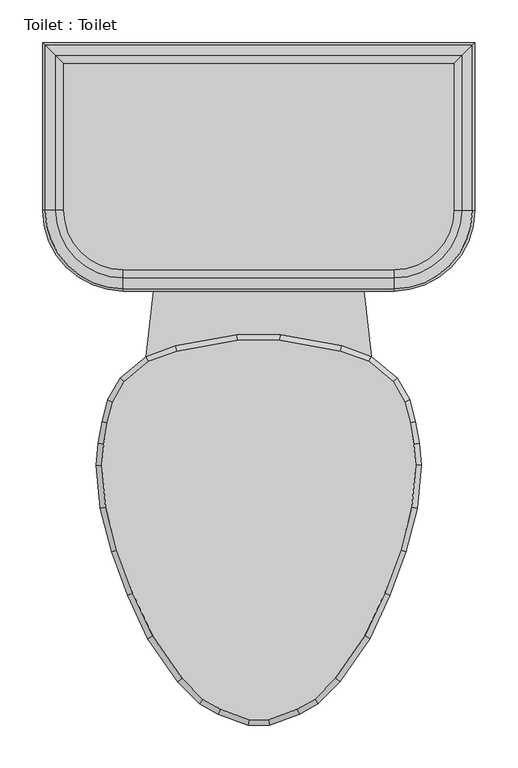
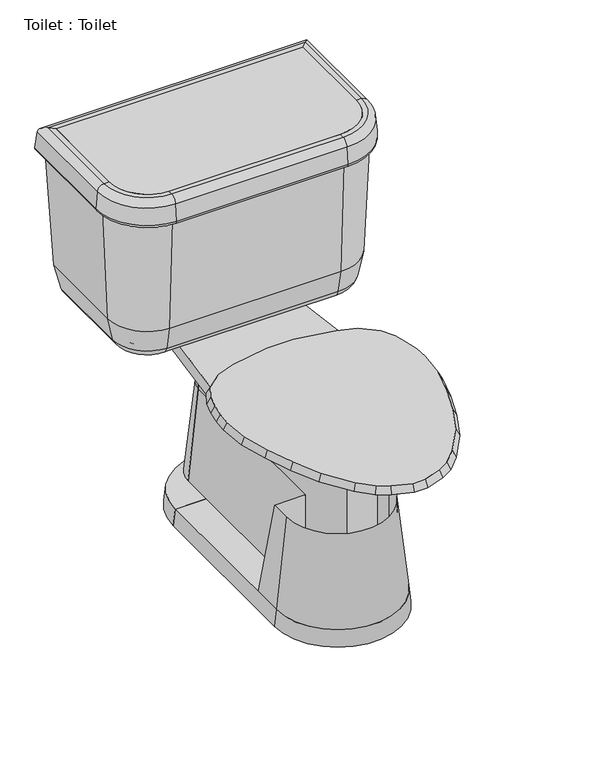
"""IFC4 building model written with IfcOpenShell, lengths in millimetres: flow terminal geometry, Toilet : Toilet."""

from ifc_helpers import new_model, si_unit, point, frame, frame_2d, origin, place, context, project, spatial, polyline, circle_curve, ellipse_curve, trimmed, segment, composite_curve, outline, extrude, faceted_brep, source, transform, mapped, element, save
from ifc_brep_helpers import plane_surface, cylinder_surface, revolved_surface, advanced_brep


def toilet_toilet_5cb52bd4(model_context):
    return source(origin(), model_context, "Body", "SolidModel", [
        advanced_brep(
        [(-117.7636364, 285.75, 0.0), (-38.1, 285.75, 0.0), (-38.1, 285.75, 31.75), (-114.3, 285.75, 31.75), (117.7636364, 285.75, 0.0), (114.3, 285.75, 31.75), (38.1, 285.75, 31.75), (38.1, 285.75, 0.0)],
        [
            (0, 1),
            (1, 2),
            (2, 3),
            (3, 0),
            (4, 5),
            (5, 6),
            (6, 7),
            (7, 4),
            (7, 1, circle_curve(frame((0.0, 285.75, 0.0), z_axis=(0.0, 0.0, 1.0), x_axis=(-1.0, 0.0, 0.0)), 38.1)),
            (0, 4, circle_curve(frame((0.0, 285.75, 0.0), z_axis=(0.0, 0.0, -1.0), x_axis=(-1.0, 0.0, 0.0)), 117.7636364)),
            (6, 2, circle_curve(frame((0.0, 285.75, 31.75), z_axis=(0.0, 0.0, 1.0), x_axis=(-1.0, 0.0, 0.0)), 38.1)),
            (5, 3, circle_curve(frame((0.0, 285.75, 31.75), z_axis=(0.0, 0.0, 1.0), x_axis=(-1.0, 0.0, 0.0)), 114.3)),
        ],
        [
            plane_surface(frame((0.0, 285.75, -304.8), z_axis=(0.0, -1.0, 0.0), x_axis=(-1.0, 0.0, 0.0))),
            plane_surface(frame((0.0, 285.75, -304.8), z_axis=(0.0, -1.0, 0.0), x_axis=(1.0, 0.0, 0.0))),
            plane_surface(frame((0.0, 285.75, 0.0), z_axis=(0.0, 0.0, -1.0), x_axis=(-1.0, 0.0, 0.0))),
            revolved_surface(polyline([(-38.1, 285.75, 0.0), (-38.1, 285.75, 31.75)]), (0.0, 285.75, -304.8), (0.0, 0.0, -1.0)),
            plane_surface(frame((0.0, 285.75, 31.75), z_axis=(0.0, 0.0, 1.0), x_axis=(-1.0, 0.0, 0.0))),
            revolved_surface(polyline([(-114.3, 285.75, 31.75), (-117.7636364, 285.75, 0.0)]), (0.0, 285.75, -304.8), (0.0, 0.0, -1.0)),
        ],
        [
            (0, [[1, 2, 3, 4]]),
            (1, [[5, 6, 7, 8]]),
            (2, [[9, -1, 10, -8]]),
            (3, [[11, -2, -9, -7]]),
            (4, [[12, -3, -11, -6]]),
            (5, [[-10, -4, -12, -5]]),
        ],
    ),
        advanced_brep(
        [(-38.1, 342.9, 206.375), (-57.15, 342.9, 31.75), (-38.1, 342.9, 31.75), (38.1, 342.9, 206.375), (38.1, 342.9, 31.75), (57.15, 342.9, 31.75)],
        [
            (0, 1),
            (1, 2),
            (2, 0),
            (3, 4),
            (4, 5),
            (5, 3),
            (5, 1, circle_curve(frame((0.0, 342.9, 31.75), z_axis=(0.0, 0.0, 1.0), x_axis=(-1.0, 0.0, 0.0)), 57.15)),
            (0, 3, circle_curve(frame((0.0, 342.9, 206.375), z_axis=(0.0, 0.0, -1.0), x_axis=(-1.0, 0.0, 0.0)), 38.1)),
            (4, 2, circle_curve(frame((0.0, 342.9, 31.75), z_axis=(0.0, 0.0, 1.0), x_axis=(-1.0, 0.0, 0.0)), 38.1)),
        ],
        [
            plane_surface(frame((0.0, 342.9, 31.75), z_axis=(0.0, -1.0, 0.0), x_axis=(-1.0, 0.0, 0.0))),
            plane_surface(frame((0.0, 342.9, 31.75), z_axis=(0.0, -1.0, 0.0), x_axis=(1.0, 0.0, 0.0))),
            revolved_surface(polyline([(-38.1, 342.9, 206.375), (-57.15, 342.9, 31.75)]), (0.0, 342.9, 31.75), (0.0, 0.0, -1.0)),
            plane_surface(frame((0.0, 342.9, 31.75), z_axis=(0.0, 0.0, -1.0), x_axis=(-1.0, 0.0, 0.0))),
            revolved_surface(polyline([(-38.1, 342.9, 31.75), (-38.1, 342.9, 206.375)]), (0.0, 342.9, 31.75), (0.0, 0.0, -1.0)),
        ],
        [
            (0, [[1, 2, 3]]),
            (1, [[4, 5, 6]]),
            (2, [[7, -1, 8, -6]]),
            (3, [[9, -2, -7, -5]]),
            (4, [[-8, -3, -9, -4]]),
        ],
    ),
        faceted_brep([(-157.6293435, 97.472128, 400.05), (-171.060664, 73.773864, 400.05), (-177.5851102, 49.4242991, 400.05), (-181.9845715, 24.4737144, 400.05), (-184.125744, 0.0, 400.05), (-179.7950716, -49.4998127, 400.05), (-166.347, -99.688699, 400.05), (-148.0469602, -149.9676451, 400.05), (-124.7045808, -200.0255393, 400.05), (-90.0971582, -249.9125941, 400.05), (-65.691017, -274.3187354, 400.05), (-44.8990862, -286.3229622, 400.05), (-11.5803237, -298.45, 400.05), (11.5803237, -298.45, 400.05), (44.8990862, -286.3229622, 400.05), (65.691017, -274.3187354, 400.05), (90.0971582, -249.9125941, 400.05), (124.7045808, -200.0255393, 400.05), (148.0469602, -149.9676451, 400.05), (166.347, -99.688699, 400.05), (179.7950716, -49.4998127, 400.05), (184.125744, 0.0, 400.05), (181.9845715, 24.4737144, 400.05), (177.5851102, 49.4242991, 400.05), (171.060664, 73.773864, 400.05), (157.6293435, 97.472128, 400.05), (129.0942628, 121.4159037, 400.05), (95.7755003, 133.5429415, 400.05), (24.844447, 146.05, 400.05), (-24.844447, 146.05, 400.05), (-95.7755003, 133.5429415, 400.05), (-129.0942628, 121.4159037, 400.05), (-162.5887836, 101.6, 387.2181453), (-132.3182423, 127.0, 387.2181453), (-97.4252791, 139.7, 387.2181453), (-25.4, 152.4, 387.2181453), (25.4, 152.4, 387.2181453), (97.4252791, 139.7, 387.2181453), (132.3182423, 127.0, 387.2181453), (162.5887836, 101.6, 387.2181453), (176.9845865, 76.2, 387.2181453), (183.790496, 50.8, 387.2181453), (188.2862441, 25.3033453, 387.2181453), (190.5, 0.0, 387.2181453), (186.0724883, -50.6066907, 387.2181453), (172.4088722, -101.6, 387.2181453), (153.9191843, -152.4, 387.2181453), (130.2307553, -203.2, 387.2181453), (94.9900085, -254.0, 387.2181453), (69.5900085, -279.4, 387.2181453), (47.5929632, -292.1, 387.2181453), (12.7, -304.8, 387.2181453), (-12.7, -304.8, 387.2181453), (-47.5929632, -292.1, 387.2181453), (-69.5900085, -279.4, 387.2181453), (-94.9900085, -254.0, 387.2181453), (-130.2307553, -203.2, 387.2181453), (-153.9191843, -152.4, 387.2181453), (-172.4088722, -101.6, 387.2181453), (-186.0724883, -50.6066907, 387.2181453), (-190.5, 0.0, 387.2181453), (-188.2862441, 25.3033453, 387.2181453), (-183.790496, 50.8, 387.2181453), (-176.9845865, 76.2, 387.2181453)], [[[0, 1, 2, 3, 4, 5, 6, 7, 8, 9, 10, 11, 12, 13, 14, 15, 16, 17, 18, 19, 20, 21, 22, 23, 24, 25, 26, 27, 28, 29, 30, 31]], [[32, 33, 34, 35, 36, 37, 38, 39, 40, 41, 42, 43, 44, 45, 46, 47, 48, 49, 50, 51, 52, 53, 54, 55, 56, 57, 58, 59, 60, 61, 62, 63]], [[32, 63, 1, 0]], [[63, 62, 2, 1]], [[62, 61, 3, 2]], [[61, 60, 4, 3]], [[60, 59, 5, 4]], [[59, 58, 6, 5]], [[58, 57, 7, 6]], [[57, 56, 8, 7]], [[56, 55, 9, 8]], [[55, 54, 10, 9]], [[54, 53, 11, 10]], [[53, 52, 12, 11]], [[52, 51, 13, 12]], [[51, 50, 14, 13]], [[50, 49, 15, 14]], [[49, 48, 16, 15]], [[48, 47, 17, 16]], [[47, 46, 18, 17]], [[46, 45, 19, 18]], [[45, 44, 20, 19]], [[44, 43, 21, 20]], [[43, 42, 22, 21]], [[42, 41, 23, 22]], [[41, 40, 24, 23]], [[40, 39, 25, 24]], [[39, 38, 26, 25]], [[38, 37, 27, 26]], [[37, 36, 28, 27]], [[36, 35, 29, 28]], [[35, 34, 30, 29]], [[34, 33, 31, 30]], [[33, 32, 0, 31]]]),
        extrude(outline(composite_curve([segment(polyline([(228.5868869, 469.8868869), (228.5868869, 298.45)]), True, "CONTINUOUS"), segment(trimmed(circle_curve(frame_2d((158.75, 298.45)), 69.8368869), [point((228.5868869, 298.45))], [point((158.75, 228.6131131))], False, "CARTESIAN"), True, "CONTINUOUS"), segment(polyline([(158.75, 228.6131131), (-158.75, 228.6131131)]), True, "CONTINUOUS"), segment(trimmed(circle_curve(frame_2d((-158.75, 298.45)), 69.8368869), [point((-158.75, 228.6131131))], [point((-228.5868869, 298.45))], False, "CARTESIAN"), True, "CONTINUOUS"), segment(polyline([(-228.5868869, 298.45), (-228.5868869, 469.8868869), (228.5868869, 469.8868869)]), True, "CONTINUOUS")], self_intersect=False)), frame((0.0, 0.0, 654.05), z_axis=(0.0, 0.0, 1.0), x_axis=(1.0, 0.0, 0.0)), (0.0, 0.0, 1.0), 50.8),
        extrude(outline(composite_curve([segment(trimmed(circle_curve(frame_2d((0.0, 342.9)), 38.1), [point((-38.1, 342.9))], [point((38.1, 342.9))], False, "CARTESIAN"), True, "CONTINUOUS"), segment(polyline([(38.1, 342.9), (-38.1, 342.9)]), True, "CONTINUOUS")], self_intersect=False)), frame((0.0, 0.0, 206.375), z_axis=(0.0, 0.0, 1.0), x_axis=(1.0, 0.0, 0.0)), (0.0, 0.0, 1.0), 130.175),
        advanced_brep(
        [(177.8, 419.1, 387.2181453), (177.8, 419.1, 374.65), (177.8, 298.45, 374.65), (177.8, 298.45, 387.2181453), (192.8020829, 434.1020829, 387.2181453), (192.8020829, 298.45, 387.2181453), (211.4650931, 452.7650931, 402.4478636), (211.4650931, 298.45, 402.4478636), (218.7732506, 460.0732506, 438.15), (218.7732506, 298.45, 438.15), (228.5868869, 469.8868869, 654.05), (228.5868869, 298.45, 654.05), (228.5868869, 469.8868869, 704.85), (228.5868869, 298.45, 704.85), (237.91817, 479.21817, 704.85), (237.91817, 298.45, 704.85), (250.5698426, 491.8698426, 693.2568779), (250.5698426, 298.45, 693.2568779), (253.3960274, 494.6960274, 660.953439), (253.3960274, 298.45, 660.953439), (247.070191, 488.370191, 654.05), (247.070191, 298.45, 654.05), (241.3, 482.6, 654.05), (241.3, 298.45, 654.05), (231.4863636, 472.7863636, 438.15), (231.4863636, 298.45, 438.15), (222.3416824, 463.6416824, 393.4759963), (222.3416824, 298.45, 393.4759963), (197.8071664, 439.1071664, 374.65), (197.8071664, 298.45, 374.65), (158.75, 279.4, 387.2181453), (158.75, 279.4, 374.65), (158.75, 264.3979171, 387.2181453), (158.75, 245.7349069, 402.4478636), (158.75, 238.4267494, 438.15), (158.75, 228.6131131, 654.05), (158.75, 228.6131131, 704.85), (158.75, 219.28183, 704.85), (158.75, 206.6301574, 693.2568779), (158.75, 203.8039726, 660.953439), (158.75, 210.129809, 654.05), (158.75, 215.9, 654.05), (158.75, 225.7136364, 438.15), (158.75, 234.8583176, 393.4759963), (158.75, 259.3928336, 374.65), (-158.75, 279.4, 374.65), (-158.75, 279.4, 387.2181453), (-158.75, 264.3979171, 387.2181453), (-158.75, 245.7349069, 402.4478636), (-158.75, 238.4267494, 438.15), (-158.75, 228.6131131, 654.05), (-158.75, 228.6131131, 704.85), (-158.75, 219.28183, 704.85), (-158.75, 206.6301574, 693.2568779), (-158.75, 203.8039726, 660.953439), (-158.75, 210.129809, 654.05), (-158.75, 215.9, 654.05), (-158.75, 225.7136364, 438.15), (-158.75, 234.8583176, 393.4759963), (-158.75, 259.3928336, 374.65), (-177.8, 298.45, 387.2181453), (-177.8, 298.45, 374.65), (-192.8020829, 298.45, 387.2181453), (-211.4650931, 298.45, 402.4478636), (-218.7732506, 298.45, 438.15), (-228.5868869, 298.45, 654.05), (-228.5868869, 298.45, 704.85), (-237.91817, 298.45, 704.85), (-250.5698426, 298.45, 693.2568779), (-253.3960274, 298.45, 660.953439), (-247.070191, 298.45, 654.05), (-241.3, 298.45, 654.05), (-231.4863636, 298.45, 438.15), (-222.3416824, 298.45, 393.4759963), (-197.8071664, 298.45, 374.65), (-177.8, 419.1, 374.65), (-177.8, 419.1, 387.2181453), (-192.8020829, 434.1020829, 387.2181453), (-211.4650931, 452.7650931, 402.4478636), (-218.7732506, 460.0732506, 438.15), (-228.5868869, 469.8868869, 654.05), (-228.5868869, 469.8868869, 704.85), (-237.91817, 479.21817, 704.85), (-250.5698426, 491.8698426, 693.2568779), (-253.3960274, 494.6960274, 660.953439), (-247.070191, 488.370191, 654.05), (-241.3, 482.6, 654.05), (-231.4863636, 472.7863636, 438.15), (-222.3416824, 463.6416824, 393.4759963), (-197.8071664, 439.1071664, 374.65)],
        [
            (0, 1),
            (1, 2),
            (2, 3),
            (3, 0),
            (4, 0),
            (3, 5),
            (5, 4),
            (6, 4, ellipse_curve(frame((192.8020829, 434.1020829, 406.2681453), z_axis=(-0.7071067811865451, 0.7071067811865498, 0.0), x_axis=(-0.7071067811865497, -0.7071067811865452, 0.0)), 26.9407684, 19.05)),
            (5, 7, circle_curve(frame((192.8020829, 298.45, 406.2681453), z_axis=(0.0, -1.0, 0.0), x_axis=(1.0, 0.0, 0.0)), 19.05)),
            (7, 6),
            (8, 6),
            (7, 9),
            (9, 8),
            (10, 8),
            (9, 11),
            (11, 10),
            (12, 10),
            (11, 13),
            (13, 12),
            (14, 12),
            (13, 15),
            (15, 14),
            (16, 14, ellipse_curve(frame((237.91817, 479.21817, 692.15), z_axis=(0.7071067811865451, -0.7071067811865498, 0.0), x_axis=(0.7071067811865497, 0.7071067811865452, 0.0)), 17.9605122, 12.7)),
            (15, 17, circle_curve(frame((237.91817, 298.45, 692.15), z_axis=(0.0, 1.0, 0.0), x_axis=(1.0, 0.0, 0.0)), 12.7)),
            (17, 16),
            (18, 16),
            (17, 19),
            (19, 18),
            (20, 18, ellipse_curve(frame((247.070191, 488.370191, 660.4), z_axis=(0.7071067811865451, -0.7071067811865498, 0.0), x_axis=(0.7071067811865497, 0.7071067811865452, 0.0)), 8.9802561, 6.35)),
            (19, 21, circle_curve(frame((247.070191, 298.45, 660.4), z_axis=(0.0, 1.0, 0.0), x_axis=(1.0, 0.0, 0.0)), 6.35)),
            (21, 20),
            (22, 20),
            (21, 23),
            (23, 22),
            (24, 22),
            (23, 25),
            (25, 24),
            (26, 24),
            (25, 27),
            (27, 26),
            (28, 26, ellipse_curve(frame((197.8071664, 439.1071664, 400.05), z_axis=(0.7071067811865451, -0.7071067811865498, 0.0), x_axis=(0.7071067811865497, 0.7071067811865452, 0.0)), 35.9210245, 25.4)),
            (27, 29, circle_curve(frame((197.8071664, 298.45, 400.05), z_axis=(0.0, 1.0, 0.0), x_axis=(1.0, 0.0, 0.0)), 25.4)),
            (29, 28),
            (1, 28),
            (29, 2),
            (30, 3, circle_curve(frame((158.75, 298.45, 387.2181453), z_axis=(0.0, 0.0, 1.0), x_axis=(1.0, 0.0, 0.0)), 19.05)),
            (2, 31, circle_curve(frame((158.75, 298.45, 374.65), z_axis=(0.0, 0.0, -1.0), x_axis=(1.0, 0.0, 0.0)), 19.05)),
            (31, 30),
            (32, 5, circle_curve(frame((158.75, 298.45, 387.2181453), z_axis=(0.0, 0.0, 1.0), x_axis=(1.0, 0.0, 0.0)), 34.0520829)),
            (30, 32),
            (33, 7, circle_curve(frame((158.75, 298.45, 402.4478636), z_axis=(0.0, 0.0, 1.0), x_axis=(1.0, 0.0, 0.0)), 52.7150931)),
            (32, 33, circle_curve(frame((158.75, 264.3979171, 406.2681453), z_axis=(-1.0, 0.0, 0.0), x_axis=(0.0, -1.0, 0.0)), 19.05)),
            (34, 9, circle_curve(frame((158.75, 298.45, 438.15), z_axis=(0.0, 0.0, 1.0), x_axis=(1.0, 0.0, 0.0)), 60.0232506)),
            (33, 34),
            (35, 11, circle_curve(frame((158.75, 298.45, 654.05), z_axis=(0.0, 0.0, 1.0), x_axis=(1.0, 0.0, 0.0)), 69.8368869)),
            (34, 35),
            (36, 13, circle_curve(frame((158.75, 298.45, 704.85), z_axis=(0.0, 0.0, 1.0), x_axis=(1.0, 0.0, 0.0)), 69.8368869)),
            (35, 36),
            (37, 15, circle_curve(frame((158.75, 298.45, 704.85), z_axis=(0.0, 0.0, 1.0), x_axis=(1.0, 0.0, 0.0)), 79.16817)),
            (36, 37),
            (38, 17, circle_curve(frame((158.75, 298.45, 693.2568779), z_axis=(0.0, 0.0, 1.0), x_axis=(1.0, 0.0, 0.0)), 91.8198426)),
            (37, 38, circle_curve(frame((158.75, 219.28183, 692.15), z_axis=(1.0, 0.0, 0.0), x_axis=(0.0, -1.0, 0.0)), 12.7)),
            (39, 19, circle_curve(frame((158.75, 298.45, 660.953439), z_axis=(0.0, 0.0, 1.0), x_axis=(1.0, 0.0, 0.0)), 94.6460274)),
            (38, 39),
            (40, 21, circle_curve(frame((158.75, 298.45, 654.05), z_axis=(0.0, 0.0, 1.0), x_axis=(1.0, 0.0, 0.0)), 88.320191)),
            (39, 40, circle_curve(frame((158.75, 210.129809, 660.4), z_axis=(1.0, 0.0, 0.0), x_axis=(0.0, -1.0, 0.0)), 6.35)),
            (41, 23, circle_curve(frame((158.75, 298.45, 654.05), z_axis=(0.0, 0.0, 1.0), x_axis=(1.0, 0.0, 0.0)), 82.55)),
            (40, 41),
            (42, 25, circle_curve(frame((158.75, 298.45, 438.15), z_axis=(0.0, 0.0, 1.0), x_axis=(1.0, 0.0, 0.0)), 72.7363636)),
            (41, 42),
            (43, 27, circle_curve(frame((158.75, 298.45, 393.4759963), z_axis=(0.0, 0.0, 1.0), x_axis=(1.0, 0.0, 0.0)), 63.5916824)),
            (42, 43),
            (44, 29, circle_curve(frame((158.75, 298.45, 374.65), z_axis=(0.0, 0.0, 1.0), x_axis=(1.0, 0.0, 0.0)), 39.0571664)),
            (43, 44, circle_curve(frame((158.75, 259.3928336, 400.05), z_axis=(1.0, 0.0, 0.0), x_axis=(0.0, -1.0, 0.0)), 25.4)),
            (44, 31),
            (31, 45),
            (45, 46),
            (46, 30),
            (46, 47),
            (47, 32),
            (47, 48, circle_curve(frame((-158.75, 264.3979171, 406.2681453), z_axis=(-1.0, 0.0, 0.0), x_axis=(0.0, -1.0, 0.0)), 19.05)),
            (48, 33),
            (48, 49),
            (49, 34),
            (49, 50),
            (50, 35),
            (50, 51),
            (51, 36),
            (51, 52),
            (52, 37),
            (52, 53, circle_curve(frame((-158.75, 219.28183, 692.15), z_axis=(1.0, 0.0, 0.0), x_axis=(0.0, -1.0, 0.0)), 12.7)),
            (53, 38),
            (53, 54),
            (54, 39),
            (54, 55, circle_curve(frame((-158.75, 210.129809, 660.4), z_axis=(1.0, 0.0, 0.0), x_axis=(0.0, -1.0, 0.0)), 6.35)),
            (55, 40),
            (55, 56),
            (56, 41),
            (56, 57),
            (57, 42),
            (57, 58),
            (58, 43),
            (58, 59, circle_curve(frame((-158.75, 259.3928336, 400.05), z_axis=(1.0, 0.0, 0.0), x_axis=(0.0, -1.0, 0.0)), 25.4)),
            (59, 44),
            (59, 45),
            (60, 46, circle_curve(frame((-158.75, 298.45, 387.2181453), z_axis=(0.0, 0.0, 1.0), x_axis=(0.0, -1.0, 0.0)), 19.05)),
            (45, 61, circle_curve(frame((-158.75, 298.45, 374.65), z_axis=(0.0, 0.0, -1.0), x_axis=(0.0, -1.0, 0.0)), 19.05)),
            (61, 60),
            (62, 47, circle_curve(frame((-158.75, 298.45, 387.2181453), z_axis=(0.0, 0.0, 1.0), x_axis=(0.0, -1.0, 0.0)), 34.0520829)),
            (60, 62),
            (63, 48, circle_curve(frame((-158.75, 298.45, 402.4478636), z_axis=(0.0, 0.0, 1.0), x_axis=(0.0, -1.0, 0.0)), 52.7150931)),
            (62, 63, circle_curve(frame((-192.8020829, 298.45, 406.2681453), z_axis=(0.0, 1.0, 0.0), x_axis=(-1.0, 0.0, 0.0)), 19.05)),
            (64, 49, circle_curve(frame((-158.75, 298.45, 438.15), z_axis=(0.0, 0.0, 1.0), x_axis=(0.0, -1.0, 0.0)), 60.0232506)),
            (63, 64),
            (65, 50, circle_curve(frame((-158.75, 298.45, 654.05), z_axis=(0.0, 0.0, 1.0), x_axis=(0.0, -1.0, 0.0)), 69.8368869)),
            (64, 65),
            (66, 51, circle_curve(frame((-158.75, 298.45, 704.85), z_axis=(0.0, 0.0, 1.0), x_axis=(0.0, -1.0, 0.0)), 69.8368869)),
            (65, 66),
            (67, 52, circle_curve(frame((-158.75, 298.45, 704.85), z_axis=(0.0, 0.0, 1.0), x_axis=(0.0, -1.0, 0.0)), 79.16817)),
            (66, 67),
            (68, 53, circle_curve(frame((-158.75, 298.45, 693.2568779), z_axis=(0.0, 0.0, 1.0), x_axis=(0.0, -1.0, 0.0)), 91.8198426)),
            (67, 68, circle_curve(frame((-237.91817, 298.45, 692.15), z_axis=(0.0, -1.0, 0.0), x_axis=(-1.0, 0.0, 0.0)), 12.7)),
            (69, 54, circle_curve(frame((-158.75, 298.45, 660.953439), z_axis=(0.0, 0.0, 1.0), x_axis=(0.0, -1.0, 0.0)), 94.6460274)),
            (68, 69),
            (70, 55, circle_curve(frame((-158.75, 298.45, 654.05), z_axis=(0.0, 0.0, 1.0), x_axis=(0.0, -1.0, 0.0)), 88.320191)),
            (69, 70, circle_curve(frame((-247.070191, 298.45, 660.4), z_axis=(0.0, -1.0, 0.0), x_axis=(-1.0, 0.0, 0.0)), 6.35)),
            (71, 56, circle_curve(frame((-158.75, 298.45, 654.05), z_axis=(0.0, 0.0, 1.0), x_axis=(0.0, -1.0, 0.0)), 82.55)),
            (70, 71),
            (72, 57, circle_curve(frame((-158.75, 298.45, 438.15), z_axis=(0.0, 0.0, 1.0), x_axis=(0.0, -1.0, 0.0)), 72.7363636)),
            (71, 72),
            (73, 58, circle_curve(frame((-158.75, 298.45, 393.4759963), z_axis=(0.0, 0.0, 1.0), x_axis=(0.0, -1.0, 0.0)), 63.5916824)),
            (72, 73),
            (74, 59, circle_curve(frame((-158.75, 298.45, 374.65), z_axis=(0.0, 0.0, 1.0), x_axis=(0.0, -1.0, 0.0)), 39.0571664)),
            (73, 74, circle_curve(frame((-197.8071664, 298.45, 400.05), z_axis=(0.0, -1.0, 0.0), x_axis=(-1.0, 0.0, 0.0)), 25.4)),
            (74, 61),
            (61, 75),
            (75, 76),
            (76, 60),
            (76, 77),
            (77, 62),
            (77, 78, ellipse_curve(frame((-192.8020829, 434.1020829, 406.2681453), z_axis=(0.7071067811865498, 0.7071067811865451, 0.0), x_axis=(-0.7071067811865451, 0.70710678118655, 0.0)), 26.9407684, 19.05)),
            (78, 63),
            (78, 79),
            (79, 64),
            (79, 80),
            (80, 65),
            (80, 81),
            (81, 66),
            (81, 82),
            (82, 67),
            (82, 83, ellipse_curve(frame((-237.91817, 479.21817, 692.15), z_axis=(-0.7071067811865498, -0.7071067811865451, 0.0), x_axis=(0.7071067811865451, -0.70710678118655, 0.0)), 17.9605122, 12.7)),
            (83, 68),
            (83, 84),
            (84, 69),
            (84, 85, ellipse_curve(frame((-247.070191, 488.370191, 660.4), z_axis=(-0.7071067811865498, -0.7071067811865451, 0.0), x_axis=(0.7071067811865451, -0.70710678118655, 0.0)), 8.9802561, 6.35)),
            (85, 70),
            (85, 86),
            (86, 71),
            (86, 87),
            (87, 72),
            (87, 88),
            (88, 73),
            (88, 89, ellipse_curve(frame((-197.8071664, 439.1071664, 400.05), z_axis=(-0.7071067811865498, -0.7071067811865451, 0.0), x_axis=(0.7071067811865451, -0.70710678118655, 0.0)), 35.9210245, 25.4)),
            (89, 74),
            (89, 75),
            (75, 1),
            (0, 76),
            (4, 77),
            (6, 78),
            (8, 79),
            (10, 80),
            (12, 81),
            (14, 82),
            (16, 83),
            (18, 84),
            (20, 85),
            (22, 86),
            (24, 87),
            (26, 88),
            (28, 89),
        ],
        [
            plane_surface(frame((177.8, 419.1, 374.65), z_axis=(-1.0, 0.0, 0.0), x_axis=(0.0, -1.0, 0.0))),
            plane_surface(frame((177.8, 419.1, 387.2181453), z_axis=(0.0, 0.0, 1.0), x_axis=(0.0, -1.0, 0.0))),
            revolved_surface(polyline([(211.8520829, 298.45, 406.2681453), (211.8520829, 453.1520829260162, 406.2681453)]), (192.8020829, 419.1, 406.2681453), (0.0, -1.0, 0.0)),
            plane_surface(frame((211.4650931, 452.7650931, 402.4478636), z_axis=(-0.9796855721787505, 0.0, 0.2005397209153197), x_axis=(0.0, -1.0, 0.0))),
            plane_surface(frame((218.7732506, 460.0732506, 438.15), z_axis=(-0.9989685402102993, 0.0, 0.04540766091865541), x_axis=(0.0, -1.0, 0.0))),
            plane_surface(frame((228.5868869, 469.8868869, 654.05), z_axis=(-1.0, 0.0, 0.0), x_axis=(0.0, -1.0, 0.0))),
            plane_surface(frame((228.5868869, 469.8868869, 704.85), z_axis=(0.0, 0.0, 1.0), x_axis=(0.0, -1.0, 0.0))),
            cylinder_surface(frame((237.91817, 419.1, 692.15), z_axis=(0.0, 1.0, 0.0), x_axis=(1.0, 0.0, 0.0)), 12.7),
            plane_surface(frame((250.5698426, 491.8698426, 693.2568779), z_axis=(0.9961946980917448, 0.0, 0.08715574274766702), x_axis=(0.0, -1.0, 0.0))),
            cylinder_surface(frame((247.070191, 419.1, 660.4), z_axis=(0.0, 1.0, 0.0), x_axis=(1.0, 0.0, 0.0)), 6.35),
            plane_surface(frame((247.070191, 488.370191, 654.05), z_axis=(0.0, 0.0, -1.0), x_axis=(0.0, -1.0, 0.0))),
            plane_surface(frame((241.3, 482.6, 654.05), z_axis=(0.9989685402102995, 0.0, -0.04540766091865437), x_axis=(0.0, -1.0, 0.0))),
            plane_surface(frame((231.4863636, 472.7863636, 438.15), z_axis=(0.9796855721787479, 0.0, -0.2005397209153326), x_axis=(0.0, -1.0, 0.0))),
            cylinder_surface(frame((197.8071664, 419.1, 400.05), z_axis=(0.0, 1.0, 0.0), x_axis=(1.0, 0.0, 0.0)), 25.4),
            plane_surface(frame((197.8071664, 439.1071664, 374.65), z_axis=(0.0, 0.0, -1.0), x_axis=(0.0, -1.0, 0.0))),
            revolved_surface(polyline([(177.8, 298.45, 374.65), (177.8, 298.45, 387.2181453)]), (158.75, 298.45, 0.0), (0.0, 0.0, -1.0)),
            plane_surface(frame((158.75, 298.45, 387.2181453), z_axis=(0.0, 0.0, 1.0), x_axis=(1.0, 0.0, 0.0))),
            revolved_surface(trimmed(ellipse_curve(frame((192.8020829, 298.45, 406.2681453), z_axis=(0.0, -1.0, 0.0), x_axis=(1.0, 0.0, 0.0)), 19.05, 19.05), [point((192.8020829, 298.45, 387.2181453))], [point((211.4650931, 298.45, 402.4478636))], True, "CARTESIAN"), (158.75, 298.45, 0.0), (0.0, 0.0, -1.0)),
            revolved_surface(polyline([(211.4650931, 298.45, 402.4478636), (218.7732506, 298.45, 438.15)]), (158.75, 298.45, 0.0), (0.0, 0.0, -1.0)),
            revolved_surface(polyline([(218.7732506, 298.45, 438.15), (228.5868869, 298.45, 654.05)]), (158.75, 298.45, 0.0), (0.0, 0.0, -1.0)),
            revolved_surface(polyline([(228.5868869, 298.45, 654.05), (228.5868869, 298.45, 704.85)]), (158.75, 298.45, 0.0), (0.0, 0.0, -1.0)),
            plane_surface(frame((158.75, 298.45, 704.85), z_axis=(0.0, 0.0, 1.0), x_axis=(1.0, 0.0, 0.0))),
            revolved_surface(trimmed(ellipse_curve(frame((237.91817, 298.45, 692.15), z_axis=(0.0, 1.0, 0.0), x_axis=(1.0, 0.0, 0.0)), 12.7, 12.7), [point((237.91817, 298.45, 704.85))], [point((250.5698426, 298.45, 693.2568779))], True, "CARTESIAN"), (158.75, 298.45, 0.0), (0.0, 0.0, -1.0)),
            revolved_surface(polyline([(250.5698426, 298.45, 693.2568779), (253.3960274, 298.45, 660.953439)]), (158.75, 298.45, 0.0), (0.0, 0.0, -1.0)),
            revolved_surface(trimmed(ellipse_curve(frame((247.070191, 298.45, 660.4), z_axis=(0.0, 1.0, 0.0), x_axis=(1.0, 0.0, 0.0)), 6.35, 6.35), [point((253.3960274, 298.45, 660.953439))], [point((247.070191, 298.45, 654.05))], True, "CARTESIAN"), (158.75, 298.45, 0.0), (0.0, 0.0, -1.0)),
            plane_surface(frame((158.75, 298.45, 654.05), z_axis=(0.0, 0.0, -1.0), x_axis=(1.0, 0.0, 0.0))),
            revolved_surface(polyline([(241.3, 298.45, 654.05), (231.4863636, 298.45, 438.15)]), (158.75, 298.45, 0.0), (0.0, 0.0, -1.0)),
            revolved_surface(polyline([(231.4863636, 298.45, 438.15), (222.3416824, 298.45, 393.4759963)]), (158.75, 298.45, 0.0), (0.0, 0.0, -1.0)),
            revolved_surface(trimmed(ellipse_curve(frame((197.8071664, 298.45, 400.05), z_axis=(0.0, 1.0, 0.0), x_axis=(1.0, 0.0, 0.0)), 25.4, 25.4), [point((222.3416824, 298.45, 393.4759963))], [point((197.8071664, 298.45, 374.65))], True, "CARTESIAN"), (158.75, 298.45, 0.0), (0.0, 0.0, -1.0)),
            plane_surface(frame((158.75, 298.45, 374.65), z_axis=(0.0, 0.0, -1.0), x_axis=(1.0, 0.0, 0.0))),
            plane_surface(frame((158.75, 279.4, 374.65), z_axis=(0.0, 1.0, 0.0), x_axis=(-1.0, 0.0, 0.0))),
            plane_surface(frame((158.75, 279.4, 387.2181453), z_axis=(0.0, 0.0, 1.0), x_axis=(-1.0, 0.0, 0.0))),
            revolved_surface(polyline([(-158.75, 245.34791709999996, 406.2681453), (158.75, 245.34791709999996, 406.2681453)]), (158.75, 264.3979171, 406.2681453), (-1.0, 0.0, 0.0)),
            plane_surface(frame((158.75, 245.7349069, 402.4478636), z_axis=(0.0, 0.9796855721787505, 0.2005397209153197), x_axis=(-1.0, 0.0, 0.0))),
            plane_surface(frame((158.75, 238.4267494, 438.15), z_axis=(0.0, 0.9989685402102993, 0.04540766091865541), x_axis=(-1.0, 0.0, 0.0))),
            plane_surface(frame((158.75, 228.6131131, 654.05), z_axis=(0.0, 1.0, 0.0), x_axis=(-1.0, 0.0, 0.0))),
            plane_surface(frame((158.75, 228.6131131, 704.85), z_axis=(0.0, 0.0, 1.0), x_axis=(-1.0, 0.0, 0.0))),
            cylinder_surface(frame((158.75, 219.28183, 692.15), z_axis=(1.0, 0.0, 0.0), x_axis=(0.0, -1.0, 0.0)), 12.7),
            plane_surface(frame((158.75, 206.6301574, 693.2568779), z_axis=(0.0, -0.9961946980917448, 0.08715574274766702), x_axis=(-1.0, 0.0, 0.0))),
            cylinder_surface(frame((158.75, 210.129809, 660.4), z_axis=(1.0, 0.0, 0.0), x_axis=(0.0, -1.0, 0.0)), 6.35),
            plane_surface(frame((158.75, 210.129809, 654.05), z_axis=(0.0, 0.0, -1.0), x_axis=(-1.0, 0.0, 0.0))),
            plane_surface(frame((158.75, 215.9, 654.05), z_axis=(0.0, -0.9989685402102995, -0.04540766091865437), x_axis=(-1.0, 0.0, 0.0))),
            plane_surface(frame((158.75, 225.7136364, 438.15), z_axis=(0.0, -0.9796855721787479, -0.2005397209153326), x_axis=(-1.0, 0.0, 0.0))),
            cylinder_surface(frame((158.75, 259.3928336, 400.05), z_axis=(1.0, 0.0, 0.0), x_axis=(0.0, -1.0, 0.0)), 25.4),
            plane_surface(frame((158.75, 259.3928336, 374.65), z_axis=(0.0, 0.0, -1.0), x_axis=(-1.0, 0.0, 0.0))),
            revolved_surface(polyline([(-158.75, 279.4, 374.65), (-158.75, 279.4, 387.2181453)]), (-158.75, 298.45, 0.0), (0.0, 0.0, -1.0)),
            plane_surface(frame((-158.75, 298.45, 387.2181453), z_axis=(0.0, 0.0, 1.0), x_axis=(0.0, -1.0, 0.0))),
            revolved_surface(trimmed(ellipse_curve(frame((-158.75, 264.3979171, 406.2681453), z_axis=(-1.0, 0.0, 0.0), x_axis=(0.0, -1.0, 0.0)), 19.05, 19.05), [point((-158.75, 264.3979171, 387.2181453))], [point((-158.75, 245.7349069, 402.4478636))], True, "CARTESIAN"), (-158.75, 298.45, 0.0), (0.0, 0.0, -1.0)),
            revolved_surface(polyline([(-158.75, 245.7349069, 402.4478636), (-158.75, 238.4267494, 438.15)]), (-158.75, 298.45, 0.0), (0.0, 0.0, -1.0)),
            revolved_surface(polyline([(-158.75, 238.4267494, 438.15), (-158.75, 228.6131131, 654.05)]), (-158.75, 298.45, 0.0), (0.0, 0.0, -1.0)),
            revolved_surface(polyline([(-158.75, 228.6131131, 654.05), (-158.75, 228.6131131, 704.85)]), (-158.75, 298.45, 0.0), (0.0, 0.0, -1.0)),
            plane_surface(frame((-158.75, 298.45, 704.85), z_axis=(0.0, 0.0, 1.0), x_axis=(0.0, -1.0, 0.0))),
            revolved_surface(trimmed(ellipse_curve(frame((-158.75, 219.28183, 692.15), z_axis=(1.0, 0.0, 0.0), x_axis=(0.0, -1.0, 0.0)), 12.7, 12.7), [point((-158.75, 219.28183, 704.85))], [point((-158.75, 206.6301574, 693.2568779))], True, "CARTESIAN"), (-158.75, 298.45, 0.0), (0.0, 0.0, -1.0)),
            revolved_surface(polyline([(-158.75, 206.6301574, 693.2568779), (-158.75, 203.8039726, 660.953439)]), (-158.75, 298.45, 0.0), (0.0, 0.0, -1.0)),
            revolved_surface(trimmed(ellipse_curve(frame((-158.75, 210.129809, 660.4), z_axis=(1.0, 0.0, 0.0), x_axis=(0.0, -1.0, 0.0)), 6.35, 6.35), [point((-158.75, 203.8039726, 660.953439))], [point((-158.75, 210.129809, 654.05))], True, "CARTESIAN"), (-158.75, 298.45, 0.0), (0.0, 0.0, -1.0)),
            plane_surface(frame((-158.75, 298.45, 654.05), z_axis=(0.0, 0.0, -1.0), x_axis=(0.0, -1.0, 0.0))),
            revolved_surface(polyline([(-158.75, 215.9, 654.05), (-158.75, 225.7136364, 438.15)]), (-158.75, 298.45, 0.0), (0.0, 0.0, -1.0)),
            revolved_surface(polyline([(-158.75, 225.7136364, 438.15), (-158.75, 234.8583176, 393.4759963)]), (-158.75, 298.45, 0.0), (0.0, 0.0, -1.0)),
            revolved_surface(trimmed(ellipse_curve(frame((-158.75, 259.3928336, 400.05), z_axis=(1.0, 0.0, 0.0), x_axis=(0.0, -1.0, 0.0)), 25.4, 25.4), [point((-158.75, 234.8583176, 393.4759963))], [point((-158.75, 259.3928336, 374.65))], True, "CARTESIAN"), (-158.75, 298.45, 0.0), (0.0, 0.0, -1.0)),
            plane_surface(frame((-158.75, 298.45, 374.65), z_axis=(0.0, 0.0, -1.0), x_axis=(0.0, -1.0, 0.0))),
            plane_surface(frame((-177.8, 298.45, 374.65), z_axis=(1.0, 0.0, 0.0), x_axis=(0.0, 1.0, 0.0))),
            plane_surface(frame((-177.8, 298.45, 387.2181453), z_axis=(0.0, 0.0, 1.0), x_axis=(0.0, 1.0, 0.0))),
            revolved_surface(polyline([(-211.8520829, 453.15208292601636, 406.2681453), (-211.8520829, 298.45, 406.2681453)]), (-192.8020829, 298.45, 406.2681453), (0.0, 1.0, 0.0)),
            plane_surface(frame((-211.4650931, 298.45, 402.4478636), z_axis=(0.9796855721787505, 0.0, 0.2005397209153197), x_axis=(0.0, 1.0, 0.0))),
            plane_surface(frame((-218.7732506, 298.45, 438.15), z_axis=(0.9989685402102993, 0.0, 0.04540766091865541), x_axis=(0.0, 1.0, 0.0))),
            plane_surface(frame((-228.5868869, 298.45, 654.05), z_axis=(1.0, 0.0, 0.0), x_axis=(0.0, 1.0, 0.0))),
            plane_surface(frame((-228.5868869, 298.45, 704.85), z_axis=(0.0, 0.0, 1.0), x_axis=(0.0, 1.0, 0.0))),
            cylinder_surface(frame((-237.91817, 298.45, 692.15), z_axis=(0.0, -1.0, 0.0), x_axis=(-1.0, 0.0, 0.0)), 12.7),
            plane_surface(frame((-250.5698426, 298.45, 693.2568779), z_axis=(-0.9961946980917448, 0.0, 0.08715574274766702), x_axis=(0.0, 1.0, 0.0))),
            cylinder_surface(frame((-247.070191, 298.45, 660.4), z_axis=(0.0, -1.0, 0.0), x_axis=(-1.0, 0.0, 0.0)), 6.35),
            plane_surface(frame((-247.070191, 298.45, 654.05), z_axis=(0.0, 0.0, -1.0), x_axis=(0.0, 1.0, 0.0))),
            plane_surface(frame((-241.3, 298.45, 654.05), z_axis=(-0.9989685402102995, 0.0, -0.04540766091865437), x_axis=(0.0, 1.0, 0.0))),
            plane_surface(frame((-231.4863636, 298.45, 438.15), z_axis=(-0.9796855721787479, 0.0, -0.2005397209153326), x_axis=(0.0, 1.0, 0.0))),
            cylinder_surface(frame((-197.8071664, 298.45, 400.05), z_axis=(0.0, -1.0, 0.0), x_axis=(-1.0, 0.0, 0.0)), 25.4),
            plane_surface(frame((-197.8071664, 298.45, 374.65), z_axis=(0.0, 0.0, -1.0), x_axis=(0.0, 1.0, 0.0))),
            plane_surface(frame((-177.8, 419.1, 374.65), z_axis=(0.0, -1.0, 0.0), x_axis=(1.0, 0.0, 0.0))),
            plane_surface(frame((-177.8, 419.1, 387.2181453), z_axis=(0.0, 0.0, 1.0), x_axis=(1.0, 0.0, 0.0))),
            revolved_surface(polyline([(211.85208292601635, 453.15208290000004, 406.2681453), (-211.85208292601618, 453.15208290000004, 406.2681453)]), (-177.8, 434.1020829, 406.2681453), (1.0, 0.0, 0.0)),
            plane_surface(frame((-211.4650931, 452.7650931, 402.4478636), z_axis=(0.0, -0.9796855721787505, 0.2005397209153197), x_axis=(1.0, 0.0, 0.0))),
            plane_surface(frame((-218.7732506, 460.0732506, 438.15), z_axis=(0.0, -0.9989685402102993, 0.04540766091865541), x_axis=(1.0, 0.0, 0.0))),
            plane_surface(frame((-228.5868869, 469.8868869, 654.05), z_axis=(0.0, -1.0, 0.0), x_axis=(1.0, 0.0, 0.0))),
            plane_surface(frame((-228.5868869, 469.8868869, 704.85), z_axis=(0.0, 0.0, 1.0), x_axis=(1.0, 0.0, 0.0))),
            cylinder_surface(frame((-177.8, 479.21817, 692.15), z_axis=(-1.0, 0.0, 0.0), x_axis=(0.0, 1.0, 0.0)), 12.7),
            plane_surface(frame((-250.5698426, 491.8698426, 693.2568779), z_axis=(0.0, 0.9961946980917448, 0.08715574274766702), x_axis=(1.0, 0.0, 0.0))),
            cylinder_surface(frame((-177.8, 488.370191, 660.4), z_axis=(-1.0, 0.0, 0.0), x_axis=(0.0, 1.0, 0.0)), 6.35),
            plane_surface(frame((-247.070191, 488.370191, 654.05), z_axis=(0.0, 0.0, -1.0), x_axis=(1.0, 0.0, 0.0))),
            plane_surface(frame((-241.3, 482.6, 654.05), z_axis=(0.0, 0.9989685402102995, -0.04540766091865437), x_axis=(1.0, 0.0, 0.0))),
            plane_surface(frame((-231.4863636, 472.7863636, 438.15), z_axis=(0.0, 0.9796855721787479, -0.2005397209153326), x_axis=(1.0, 0.0, 0.0))),
            cylinder_surface(frame((-177.8, 439.1071664, 400.05), z_axis=(-1.0, 0.0, 0.0), x_axis=(0.0, 1.0, 0.0)), 25.4),
            plane_surface(frame((-197.8071664, 439.1071664, 374.65), z_axis=(0.0, 0.0, -1.0), x_axis=(1.0, 0.0, 0.0))),
        ],
        [
            (0, [[1, 2, 3, 4]]),
            (1, [[5, -4, 6, 7]]),
            (2, [[8, -7, 9, 10]]),
            (3, [[11, -10, 12, 13]]),
            (4, [[14, -13, 15, 16]]),
            (5, [[17, -16, 18, 19]]),
            (6, [[20, -19, 21, 22]]),
            (7, [[23, -22, 24, 25]]),
            (8, [[26, -25, 27, 28]]),
            (9, [[29, -28, 30, 31]]),
            (10, [[32, -31, 33, 34]]),
            (11, [[35, -34, 36, 37]]),
            (12, [[38, -37, 39, 40]]),
            (13, [[41, -40, 42, 43]]),
            (14, [[44, -43, 45, -2]]),
            (15, [[46, -3, 47, 48]]),
            (16, [[49, -6, -46, 50]]),
            (17, [[51, -9, -49, 52]]),
            (18, [[53, -12, -51, 54]]),
            (19, [[55, -15, -53, 56]]),
            (20, [[57, -18, -55, 58]]),
            (21, [[59, -21, -57, 60]]),
            (22, [[61, -24, -59, 62]]),
            (23, [[63, -27, -61, 64]]),
            (24, [[65, -30, -63, 66]]),
            (25, [[67, -33, -65, 68]]),
            (26, [[69, -36, -67, 70]]),
            (27, [[71, -39, -69, 72]]),
            (28, [[73, -42, -71, 74]]),
            (29, [[-47, -45, -73, 75]]),
            (30, [[-48, 76, 77, 78]]),
            (31, [[-50, -78, 79, 80]]),
            (32, [[-52, -80, 81, 82]]),
            (33, [[-54, -82, 83, 84]]),
            (34, [[-56, -84, 85, 86]]),
            (35, [[-58, -86, 87, 88]]),
            (36, [[-60, -88, 89, 90]]),
            (37, [[-62, -90, 91, 92]]),
            (38, [[-64, -92, 93, 94]]),
            (39, [[-66, -94, 95, 96]]),
            (40, [[-68, -96, 97, 98]]),
            (41, [[-70, -98, 99, 100]]),
            (42, [[-72, -100, 101, 102]]),
            (43, [[-74, -102, 103, 104]]),
            (44, [[-75, -104, 105, -76]]),
            (45, [[106, -77, 107, 108]]),
            (46, [[109, -79, -106, 110]]),
            (47, [[111, -81, -109, 112]]),
            (48, [[113, -83, -111, 114]]),
            (49, [[115, -85, -113, 116]]),
            (50, [[117, -87, -115, 118]]),
            (51, [[119, -89, -117, 120]]),
            (52, [[121, -91, -119, 122]]),
            (53, [[123, -93, -121, 124]]),
            (54, [[125, -95, -123, 126]]),
            (55, [[127, -97, -125, 128]]),
            (56, [[129, -99, -127, 130]]),
            (57, [[131, -101, -129, 132]]),
            (58, [[133, -103, -131, 134]]),
            (59, [[-107, -105, -133, 135]]),
            (60, [[-108, 136, 137, 138]]),
            (61, [[-110, -138, 139, 140]]),
            (62, [[-112, -140, 141, 142]]),
            (63, [[-114, -142, 143, 144]]),
            (64, [[-116, -144, 145, 146]]),
            (65, [[-118, -146, 147, 148]]),
            (66, [[-120, -148, 149, 150]]),
            (67, [[-122, -150, 151, 152]]),
            (68, [[-124, -152, 153, 154]]),
            (69, [[-126, -154, 155, 156]]),
            (70, [[-128, -156, 157, 158]]),
            (71, [[-130, -158, 159, 160]]),
            (72, [[-132, -160, 161, 162]]),
            (73, [[-134, -162, 163, 164]]),
            (74, [[-135, -164, 165, -136]]),
            (75, [[-137, 166, -1, 167]]),
            (76, [[-139, -167, -5, 168]]),
            (77, [[-141, -168, -8, 169]]),
            (78, [[-143, -169, -11, 170]]),
            (79, [[-145, -170, -14, 171]]),
            (80, [[-147, -171, -17, 172]]),
            (81, [[-149, -172, -20, 173]]),
            (82, [[-151, -173, -23, 174]]),
            (83, [[-153, -174, -26, 175]]),
            (84, [[-155, -175, -29, 176]]),
            (85, [[-157, -176, -32, 177]]),
            (86, [[-159, -177, -35, 178]]),
            (87, [[-161, -178, -38, 179]]),
            (88, [[-163, -179, -41, 180]]),
            (89, [[-165, -180, -44, -166]]),
        ],
    ),
        extrude(outline(composite_curve([segment(polyline([(-25.4, 152.4), (-97.4252791, 139.7), (-132.3182423, 127.0), (-101.4824733, 395.1508638)]), True, "CONTINUOUS"), segment(trimmed(circle_curve(frame_2d((-88.8656197, 393.7)), 12.7), [point((-101.4824733, 395.1508638))], [point((-88.8656197, 406.4))], False, "CARTESIAN"), True, "CONTINUOUS"), segment(polyline([(-88.8656197, 406.4), (88.8656197, 406.4)]), True, "CONTINUOUS"), segment(trimmed(circle_curve(frame_2d((88.8656197, 393.7)), 12.7), [point((88.8656197, 406.4))], [point((101.4824733, 395.1508638))], False, "CARTESIAN"), True, "CONTINUOUS"), segment(polyline([(101.4824733, 395.1508638), (132.3182423, 127.0), (97.4252791, 139.7), (25.4, 152.4), (0.0, 152.4), (-25.4, 152.4)]), True, "CONTINUOUS")], self_intersect=False)), frame((0.0, 0.0, 336.55), z_axis=(0.0, 0.0, 1.0), x_axis=(1.0, 0.0, 0.0)), (0.0, 0.0, 1.0), 25.4),
        extrude(outline(polyline([(139.7, 264.5247209), (152.4, 336.55), (342.9, 336.55), (342.9, 206.375), (107.4852632, 206.375), (127.0, 229.6317577), (139.7, 264.5247209)])), frame((-38.1, 0.0, 0.0), z_axis=(1.0, 0.0, 0.0), x_axis=(0.0, 1.0, 0.0)), (0.0, 0.0, 1.0), 76.2),
        advanced_brep(
        [(-117.7636364, 285.75, 0.0), (-114.3, 285.75, 31.75), (-38.1, 285.75, 31.75), (-38.1, 285.75, 0.0), (-117.7636364, -38.0999951, 0.0), (-114.3, -38.0999951, 31.75), (-38.1, -38.0999951, 31.75), (-38.1, -38.0999951, 0.0), (114.2999707, -38.0999951, 31.75), (117.7636071, -38.0999951, 0.0), (38.0999707, -38.0999951, 31.75), (38.0999707, -38.0999951, 0.0), (117.7636071, 285.6681634, 0.0), (38.0999707, 285.6681634, 0.0), (38.0999707, 285.6681634, 31.75), (114.2999707, 285.6681634, 31.75)],
        [
            (0, 1),
            (1, 2),
            (2, 3),
            (3, 0),
            (0, 4),
            (4, 5),
            (5, 1),
            (5, 6),
            (6, 2),
            (6, 7),
            (7, 3),
            (7, 4),
            (8, 5, circle_curve(frame((-1.46e-05, -38.0999951, 31.75), z_axis=(0.0, 0.0, -1.0), x_axis=(-1.0, 0.0, 0.0)), 114.2999854)),
            (4, 9, circle_curve(frame((-1.46e-05, -38.0999951, 0.0), z_axis=(0.0, 0.0, 1.0), x_axis=(-1.0, 0.0, 0.0)), 117.7636217)),
            (9, 8),
            (10, 6, circle_curve(frame((-1.46e-05, -38.0999951, 31.75), z_axis=(0.0, 0.0, -1.0), x_axis=(-1.0, 0.0, 0.0)), 38.0999854)),
            (8, 10),
            (11, 7, circle_curve(frame((-1.46e-05, -38.0999951, 0.0), z_axis=(0.0, 0.0, -1.0), x_axis=(-1.0, 0.0, 0.0)), 38.0999854)),
            (10, 11),
            (11, 9),
            (12, 13),
            (13, 14),
            (14, 15),
            (15, 12),
            (9, 12),
            (15, 8),
            (14, 10),
            (13, 11),
        ],
        [
            plane_surface(frame((-196.85, 285.75, 0.0), z_axis=(0.0, 1.0, 0.0), x_axis=(0.0, 0.0, -1.0))),
            plane_surface(frame((-117.7636364, 285.75, 0.0), z_axis=(-0.9941021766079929, 0.0, 0.10844751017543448), x_axis=(0.0, -1.0, 0.0))),
            plane_surface(frame((-114.3, 285.75, 31.75), z_axis=(0.0, 0.0, 1.0), x_axis=(0.0, -1.0, 0.0))),
            plane_surface(frame((-38.1, 285.75, 31.75), z_axis=(1.0, 0.0, 0.0), x_axis=(0.0, -1.0, 0.0))),
            plane_surface(frame((-38.1, 285.75, 0.0), z_axis=(0.0, 0.0, -1.0), x_axis=(0.0, -1.0, 0.0))),
            revolved_surface(polyline([(-117.7636364, -38.0999951, 0.0), (-114.3, -38.0999951, 31.75)]), (-1.46e-05, -38.0999951, 0.0), (0.0, 0.0, 1.0)),
            plane_surface(frame((-1.46e-05, -38.0999951, 31.75), z_axis=(0.0, 0.0, 1.0), x_axis=(-1.0, 0.0, 0.0))),
            revolved_surface(polyline([(-38.1, -38.0999951, 31.75), (-38.1, -38.0999951, 0.0)]), (-1.46e-05, -38.0999951, 0.0), (0.0, 0.0, 1.0)),
            plane_surface(frame((-1.46e-05, -38.0999951, 0.0), z_axis=(0.0, 0.0, -1.0), x_axis=(-1.0, 0.0, 0.0))),
            plane_surface(frame((31.7499707, 285.6681634, 0.0), z_axis=(0.0, 1.0, 0.0), x_axis=(0.0, 0.0, 1.0))),
            plane_surface(frame((117.7636071, -38.0999951, 0.0), z_axis=(0.9941021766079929, 0.0, 0.10844751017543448), x_axis=(0.0, 1.0, 0.0))),
            plane_surface(frame((114.2999707, -38.0999951, 31.75), z_axis=(0.0, 0.0, 1.0), x_axis=(0.0, 1.0, 0.0))),
            plane_surface(frame((38.0999707, -38.0999951, 31.75), z_axis=(-1.0, 0.0, 0.0), x_axis=(0.0, 1.0, 0.0))),
            plane_surface(frame((38.0999707, -38.0999951, 0.0), z_axis=(0.0, 0.0, -1.0), x_axis=(0.0, 1.0, 0.0))),
        ],
        [
            (0, [[1, 2, 3, 4]]),
            (1, [[-1, 5, 6, 7]]),
            (2, [[-2, -7, 8, 9]]),
            (3, [[-3, -9, 10, 11]]),
            (4, [[-4, -11, 12, -5]]),
            (5, [[13, -6, 14, 15]]),
            (6, [[16, -8, -13, 17]]),
            (7, [[18, -10, -16, 19]]),
            (8, [[-14, -12, -18, 20]]),
            (9, [[21, 22, 23, 24]]),
            (10, [[-15, 25, -24, 26]]),
            (11, [[-17, -26, -23, 27]]),
            (12, [[-19, -27, -22, 28]]),
            (13, [[-20, -28, -21, -25]]),
        ],
    ),
        advanced_brep(
        [(-57.15, 342.9, 31.75), (-38.1, 342.9, 206.375), (-38.1, 342.9, 31.75), (-57.15, 19.05, 31.75), (-38.1, 0.0, 206.375), (-38.1, 0.0, 31.75), (-114.3, 19.05, 31.75), (-95.25, 0.0, 206.375), (-95.25, 0.0, 31.75), (-114.3, -38.1, 31.75), (-95.25, -38.1, 206.375), (-95.25, -38.1, 31.75), (95.25, -38.1, 206.375), (114.3, -38.1, 31.75), (95.25, -38.1, 31.75), (114.3, 19.05, 31.75), (95.25, 0.0, 206.375), (95.25, 0.0, 31.75), (57.15, 19.05, 31.75), (38.1, 0.0, 206.375), (38.1, 0.0, 31.75), (57.15, 342.9, 31.75), (38.1, 342.9, 31.75), (38.1, 342.9, 206.375)],
        [
            (0, 1),
            (1, 2),
            (2, 0),
            (0, 3),
            (3, 4),
            (4, 1),
            (4, 5),
            (5, 2),
            (5, 3),
            (3, 6),
            (6, 7),
            (7, 4),
            (7, 8),
            (8, 5),
            (8, 6),
            (6, 9),
            (9, 10),
            (10, 7),
            (10, 11),
            (11, 8),
            (11, 9),
            (12, 10, circle_curve(frame((0.0, -38.1, 206.375), z_axis=(0.0, 0.0, -1.0), x_axis=(-1.0, 0.0, 0.0)), 95.25)),
            (9, 13, circle_curve(frame((0.0, -38.1, 31.75), z_axis=(0.0, 0.0, 1.0), x_axis=(-1.0, 0.0, 0.0)), 114.3)),
            (13, 12),
            (14, 11, circle_curve(frame((0.0, -38.1, 31.75), z_axis=(0.0, 0.0, -1.0), x_axis=(-1.0, 0.0, 0.0)), 95.25)),
            (12, 14),
            (14, 13),
            (13, 15),
            (15, 16),
            (16, 12),
            (16, 17),
            (17, 14),
            (17, 15),
            (15, 18),
            (18, 19),
            (19, 16),
            (19, 20),
            (20, 17),
            (20, 18),
            (21, 22),
            (22, 23),
            (23, 21),
            (18, 21),
            (23, 19),
            (22, 20),
        ],
        [
            plane_surface(frame((-244.475, 342.9, 0.0), z_axis=(0.0, 1.0, 0.0), x_axis=(0.0, 0.0, -1.0))),
            plane_surface(frame((-57.15, 342.9, 31.75), z_axis=(-0.9941021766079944, 0.0, 0.10844751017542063), x_axis=(0.0, -1.0, 0.0))),
            plane_surface(frame((-38.1, 342.9, 206.375), z_axis=(1.0, 0.0, 0.0), x_axis=(0.0, -1.0, 0.0))),
            plane_surface(frame((-38.1, 342.9, 31.75), z_axis=(0.0, 0.0, -1.0), x_axis=(0.0, -1.0, 0.0))),
            plane_surface(frame((-57.15, 19.05, 31.75), z_axis=(0.0, 0.9941021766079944, 0.10844751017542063), x_axis=(-1.0, 0.0, 0.0))),
            plane_surface(frame((-38.1, 0.0, 206.375), z_axis=(0.0, -1.0, 0.0), x_axis=(-1.0, 0.0, 0.0))),
            plane_surface(frame((-38.1, 0.0, 31.75), z_axis=(0.0, 0.0, -1.0), x_axis=(-1.0, 0.0, 0.0))),
            plane_surface(frame((-114.3, 19.05, 31.75), z_axis=(-0.9941021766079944, 0.0, 0.10844751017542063), x_axis=(0.0, -1.0, 0.0))),
            plane_surface(frame((-95.25, 0.0, 206.375), z_axis=(1.0, 0.0, 0.0), x_axis=(0.0, -1.0, 0.0))),
            plane_surface(frame((-95.25, 0.0, 31.75), z_axis=(0.0, 0.0, -1.0), x_axis=(0.0, -1.0, 0.0))),
            revolved_surface(polyline([(-114.3, -38.1, 31.75), (-95.25, -38.1, 206.375)]), (0.0, -38.1, 0.0), (0.0, 0.0, 1.0)),
            revolved_surface(polyline([(-95.25, -38.1, 206.375), (-95.25, -38.1, 31.75)]), (0.0, -38.1, 0.0), (0.0, 0.0, 1.0)),
            plane_surface(frame((0.0, -38.1, 31.75), z_axis=(0.0, 0.0, -1.0), x_axis=(-1.0, 0.0, 0.0))),
            plane_surface(frame((114.3, -38.1, 31.75), z_axis=(0.9941021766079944, 0.0, 0.10844751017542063), x_axis=(0.0, 1.0, 0.0))),
            plane_surface(frame((95.25, -38.1, 206.375), z_axis=(-1.0, 0.0, 0.0), x_axis=(0.0, 1.0, 0.0))),
            plane_surface(frame((95.25, -38.1, 31.75), z_axis=(0.0, 0.0, -1.0), x_axis=(0.0, 1.0, 0.0))),
            plane_surface(frame((114.3, 19.05, 31.75), z_axis=(0.0, 0.9941021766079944, 0.10844751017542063), x_axis=(-1.0, 0.0, 0.0))),
            plane_surface(frame((95.25, 0.0, 206.375), z_axis=(0.0, -1.0, 0.0), x_axis=(-1.0, 0.0, 0.0))),
            plane_surface(frame((95.25, 0.0, 31.75), z_axis=(0.0, 0.0, -1.0), x_axis=(-1.0, 0.0, 0.0))),
            plane_surface(frame((-168.275, 342.9, 0.0), z_axis=(0.0, 1.0, 0.0), x_axis=(0.0, 0.0, 1.0))),
            plane_surface(frame((57.15, 19.05, 31.75), z_axis=(0.9941021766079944, 0.0, 0.10844751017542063), x_axis=(0.0, 1.0, 0.0))),
            plane_surface(frame((38.1, 0.0, 206.375), z_axis=(-1.0, 0.0, 0.0), x_axis=(0.0, 1.0, 0.0))),
            plane_surface(frame((38.1, 0.0, 31.75), z_axis=(0.0, 0.0, -1.0), x_axis=(0.0, 1.0, 0.0))),
        ],
        [
            (0, [[1, 2, 3]]),
            (1, [[-1, 4, 5, 6]]),
            (2, [[-2, -6, 7, 8]]),
            (3, [[-3, -8, 9, -4]]),
            (4, [[-5, 10, 11, 12]]),
            (5, [[-7, -12, 13, 14]]),
            (6, [[-9, -14, 15, -10]]),
            (7, [[-11, 16, 17, 18]]),
            (8, [[-13, -18, 19, 20]]),
            (9, [[-15, -20, 21, -16]]),
            (10, [[22, -17, 23, 24]]),
            (11, [[25, -19, -22, 26]]),
            (12, [[-23, -21, -25, 27]]),
            (13, [[-24, 28, 29, 30]]),
            (14, [[-26, -30, 31, 32]]),
            (15, [[-27, -32, 33, -28]]),
            (16, [[-29, 34, 35, 36]]),
            (17, [[-31, -36, 37, 38]]),
            (18, [[-33, -38, 39, -34]]),
            (19, [[40, 41, 42]]),
            (20, [[-35, 43, -42, 44]]),
            (21, [[-37, -44, -41, 45]]),
            (22, [[-39, -45, -40, -43]]),
        ],
    ),
    ])


if __name__ == "__main__":
    model = new_model("IFC4")
    model_context = context("Model", 3, world=origin())
    ifc_project = project(units=[si_unit("LENGTHUNIT", "METRE", prefix="MILLI")], contexts=[model_context])
    site = spatial("IfcSite", under=ifc_project)
    building = spatial("IfcBuilding", under=site)
    placement = place(None, origin())
    toilet_toilet_shape = toilet_toilet_5cb52bd4(model_context)
    element("IfcFlowTerminal", 1, ObjectType="Toilet : Toilet", at=placement, inside=building, context=model_context, shape_type="MappedRepresentation", body=[
        mapped(toilet_toilet_shape, transform((0.0, 0.0, 0.0), x_axis=(1.0, 0.0, 0.0), y_axis=(0.0, 1.0, 0.0), z_axis=(0.0, 0.0, 1.0))),
    ])
    save(model, "model.ifc")
